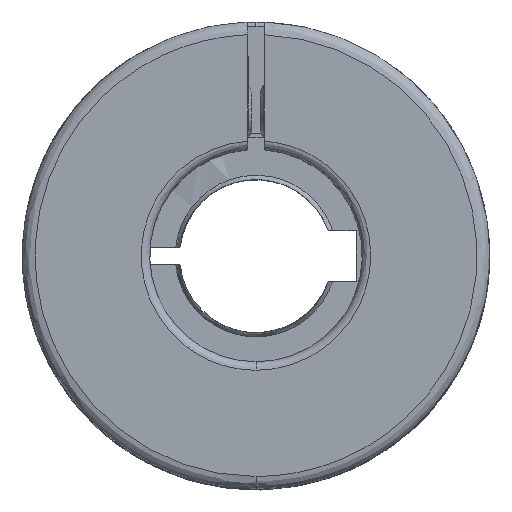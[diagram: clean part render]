
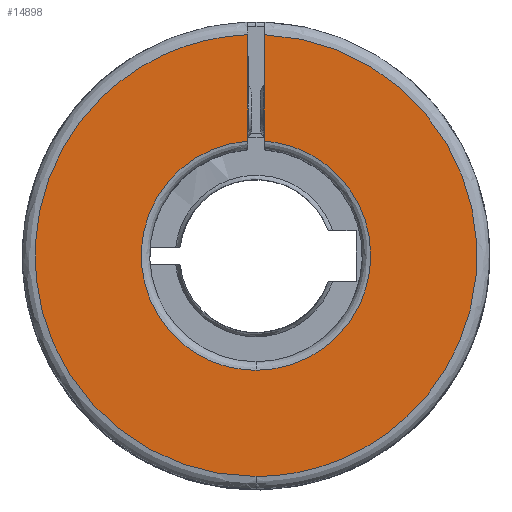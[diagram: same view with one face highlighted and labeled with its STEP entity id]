
A CAD part, top view. The second image highlights one B-rep face of the part: STEP entity #14898.
In plain terms, the highlighted planar face has unit normal (0, 0, 1).
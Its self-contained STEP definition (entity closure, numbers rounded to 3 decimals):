
#2099 =( BOUNDED_CURVE ( )  B_SPLINE_CURVE ( 3, ( #2125, #2124, #2123, #2122 ),
 .UNSPECIFIED., .F., .F. ) 
 B_SPLINE_CURVE_WITH_KNOTS ( ( 4, 4 ),
 ( 0., 1. ),
 .UNSPECIFIED. ) 
 CURVE ( )  GEOMETRIC_REPRESENTATION_ITEM ( )  RATIONAL_B_SPLINE_CURVE ( ( 1., 0.358, 0.358, 1. ) ) 
 REPRESENTATION_ITEM ( '' )  );
#2102 = DIRECTION ( 'NONE',  ( 0., 1., 0. ) ) ;
#2103 = DIRECTION ( 'NONE',  ( 0., 0., -1. ) ) ;
#2104 = CARTESIAN_POINT ( 'NONE',  ( -1.172, 3.674, 42.541 ) ) ;
#2105 = AXIS2_PLACEMENT_3D ( 'NONE', #2104, #2103, #2102 ) ;
#2106 = FACE_OUTER_BOUND ( 'NONE', #14885, .T. ) ;
#2111 = PLANE ( 'NONE',  #2105 ) ;
#2122 = CARTESIAN_POINT ( 'NONE',  ( -1.172, -9.826, 42.541 ) ) ;
#2123 = CARTESIAN_POINT ( 'NONE',  ( -26.291, -9.826, 42.541 ) ) ;
#2124 = CARTESIAN_POINT ( 'NONE',  ( -27.222, 15.276, 42.541 ) ) ;
#2125 = CARTESIAN_POINT ( 'NONE',  ( -2.172, 17.137, 42.541 ) ) ;
#2126 = CARTESIAN_POINT ( 'NONE',  ( -1.172, -9.826, 42.541 ) ) ;
#2165 = CARTESIAN_POINT ( 'NONE',  ( -0.172, 17.137, 42.541 ) ) ;
#2166 = CARTESIAN_POINT ( 'NONE',  ( 24.879, 15.276, 42.541 ) ) ;
#2167 = CARTESIAN_POINT ( 'NONE',  ( 23.948, -9.826, 42.541 ) ) ;
#2168 = CARTESIAN_POINT ( 'NONE',  ( -1.172, -9.826, 42.541 ) ) ;
#2169 =( BOUNDED_CURVE ( )  B_SPLINE_CURVE ( 3, ( #2168, #2167, #2166, #2165 ),
 .UNSPECIFIED., .F., .T. ) 
 B_SPLINE_CURVE_WITH_KNOTS ( ( 4, 4 ),
 ( 0., 1. ),
 .UNSPECIFIED. ) 
 CURVE ( )  GEOMETRIC_REPRESENTATION_ITEM ( )  RATIONAL_B_SPLINE_CURVE ( ( 1., 0.358, 0.358, 1. ) ) 
 REPRESENTATION_ITEM ( '' )  );
#3460 = EDGE_CURVE ( 'NONE', #11494, #3672, #14258, .T. ) ;
#3672 = VERTEX_POINT ( 'NONE', #3730 ) ;
#3730 = CARTESIAN_POINT ( 'NONE',  ( -2.172, 17.137, 42.541 ) ) ;
#5301 = CARTESIAN_POINT ( 'NONE',  ( -0.172, 17.137, 42.541 ) ) ;
#5302 = DIRECTION ( 'NONE',  ( 0., 1., 0. ) ) ;
#5303 = VECTOR ( 'NONE', #5302, 1000. ) ;
#5304 = CARTESIAN_POINT ( 'NONE',  ( -0.172, 3.674, 42.541 ) ) ;
#5306 = LINE ( 'NONE', #5304, #5303 ) ;
#5323 = CARTESIAN_POINT ( 'NONE',  ( -2.172, 29.655, 42.541 ) ) ;
#5324 = CARTESIAN_POINT ( 'NONE',  ( -52.199, 27.729, 42.541 ) ) ;
#5325 = CARTESIAN_POINT ( 'NONE',  ( -51.236, -22.326, 42.541 ) ) ;
#5326 = CARTESIAN_POINT ( 'NONE',  ( -1.172, -22.326, 42.541 ) ) ;
#5327 =( BOUNDED_CURVE ( )  B_SPLINE_CURVE ( 3, ( #5326, #5325, #5324, #5323 ),
 .UNSPECIFIED., .F., .T. ) 
 B_SPLINE_CURVE_WITH_KNOTS ( ( 4, 4 ),
 ( 0., 1. ),
 .UNSPECIFIED. ) 
 CURVE ( )  GEOMETRIC_REPRESENTATION_ITEM ( )  RATIONAL_B_SPLINE_CURVE ( ( 1., 0.346, 0.346, 1. ) ) 
 REPRESENTATION_ITEM ( '' )  );
#5328 = CARTESIAN_POINT ( 'NONE',  ( -1.172, -22.326, 42.541 ) ) ;
#5334 = CARTESIAN_POINT ( 'NONE',  ( -2.172, 29.655, 42.541 ) ) ;
#5604 =( BOUNDED_CURVE ( )  B_SPLINE_CURVE ( 3, ( #5646, #5645, #5644, #5643 ),
 .UNSPECIFIED., .F., .T. ) 
 B_SPLINE_CURVE_WITH_KNOTS ( ( 4, 4 ),
 ( 0., 1. ),
 .UNSPECIFIED. ) 
 CURVE ( )  GEOMETRIC_REPRESENTATION_ITEM ( )  RATIONAL_B_SPLINE_CURVE ( ( 1., 0.346, 0.346, 1. ) ) 
 REPRESENTATION_ITEM ( '' )  );
#5605 = CARTESIAN_POINT ( 'NONE',  ( -0.172, 29.655, 42.541 ) ) ;
#5643 = CARTESIAN_POINT ( 'NONE',  ( -1.172, -22.326, 42.541 ) ) ;
#5644 = CARTESIAN_POINT ( 'NONE',  ( 48.893, -22.326, 42.541 ) ) ;
#5645 = CARTESIAN_POINT ( 'NONE',  ( 49.856, 27.729, 42.541 ) ) ;
#5646 = CARTESIAN_POINT ( 'NONE',  ( -0.172, 29.655, 42.541 ) ) ;
#11494 = VERTEX_POINT ( 'NONE', #5334 ) ;
#11498 = VERTEX_POINT ( 'NONE', #5328 ) ;
#11500 = EDGE_CURVE ( 'NONE', #11498, #11494, #5327, .T. ) ;
#11551 = EDGE_CURVE ( 'NONE', #11552, #11565, #5306, .T. ) ;
#11552 = VERTEX_POINT ( 'NONE', #5301 ) ;
#11565 = VERTEX_POINT ( 'NONE', #5605 ) ;
#11567 = EDGE_CURVE ( 'NONE', #11565, #11498, #5604, .T. ) ;
#14255 = DIRECTION ( 'NONE',  ( 0., -1., 0. ) ) ;
#14256 = VECTOR ( 'NONE', #14255, 1000. ) ;
#14257 = CARTESIAN_POINT ( 'NONE',  ( -2.172, 3.674, 42.541 ) ) ;
#14258 = LINE ( 'NONE', #14257, #14256 ) ;
#14885 = EDGE_LOOP ( 'NONE', ( #14886, #14909, #14911, #14910, #14903, #14904 ) ) ;
#14886 = ORIENTED_EDGE ( 'NONE', *, *, #11500, .F. ) ;
#14898 = ADVANCED_FACE ( 'NONE', ( #2106 ), #2111, .F. ) ;
#14903 = ORIENTED_EDGE ( 'NONE', *, *, #14906, .F. ) ;
#14904 = ORIENTED_EDGE ( 'NONE', *, *, #3460, .F. ) ;
#14906 = EDGE_CURVE ( 'NONE', #3672, #14907, #2099, .T. ) ;
#14907 = VERTEX_POINT ( 'NONE', #2126 ) ;
#14908 = EDGE_CURVE ( 'NONE', #14907, #11552, #2169, .T. ) ;
#14909 = ORIENTED_EDGE ( 'NONE', *, *, #11567, .F. ) ;
#14910 = ORIENTED_EDGE ( 'NONE', *, *, #14908, .F. ) ;
#14911 = ORIENTED_EDGE ( 'NONE', *, *, #11551, .F. ) ;
